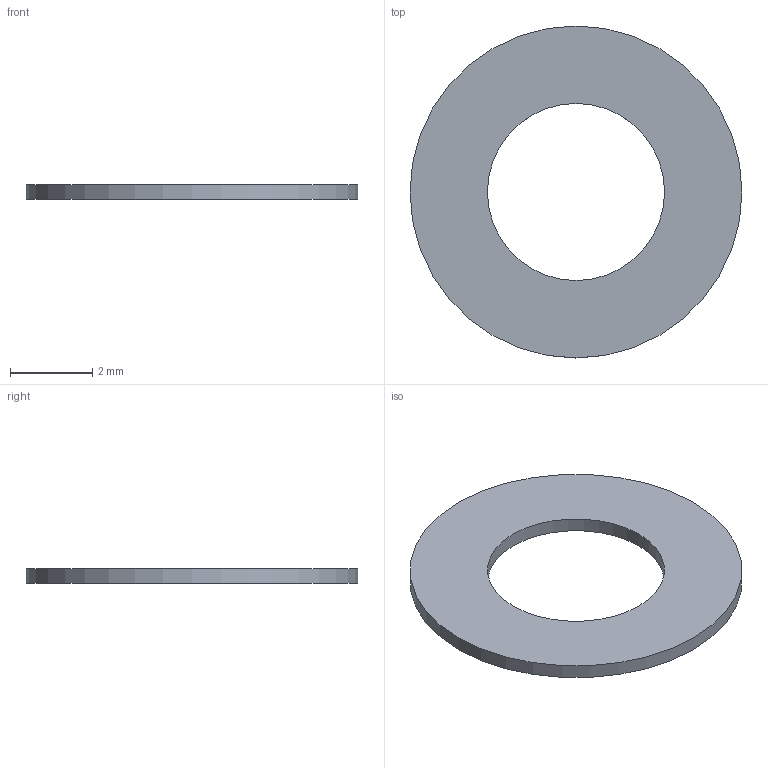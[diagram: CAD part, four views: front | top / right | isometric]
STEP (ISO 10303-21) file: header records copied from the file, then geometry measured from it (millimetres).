
FILE_DESCRIPTION(('Open CASCADE Model'),'2;1');
FILE_NAME('Open CASCADE Shape Model','2026-09-24T17:42:53',('Author'),( 'Open CASCADE'),'Open CASCADE STEP processor 7.8','Open CASCADE 7.8' ,'Unknown');
FILE_SCHEMA(('AUTOMOTIVE_DESIGN { 1 0 10303 214 1 1 1 1 }'));
Length unit declared in the file: millimetre
Products named in the file (1): Open CASCADE STEP translator 7.8 43
Bounding box: 8.06 x 8.06 x 0.35 mm (x, y, z)
Volume: 12.8 mm3; surface area: 86.6 mm2
Topology: 1 solids, 1 shells, 4 faces, 6 edges, 4 vertices
Faces by surface type: cylinder 2, plane 2
Full cylindrical faces by diameter (mm): 4.3 x1, 8.06 x1
Entity records: 186 total; most frequent: DIRECTION 32, CARTESIAN_POINT 27, ORIENTED_EDGE 12, PCURVE 12, DEFINITIONAL_REPRESENTATION 12, LINE 10, VECTOR 10, AXIS2_PLACEMENT_3D 9
